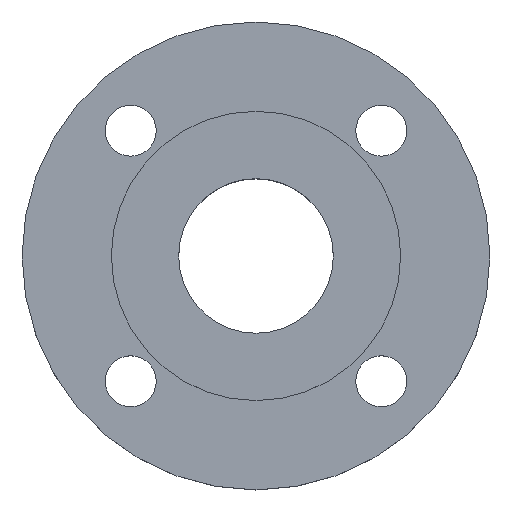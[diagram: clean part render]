
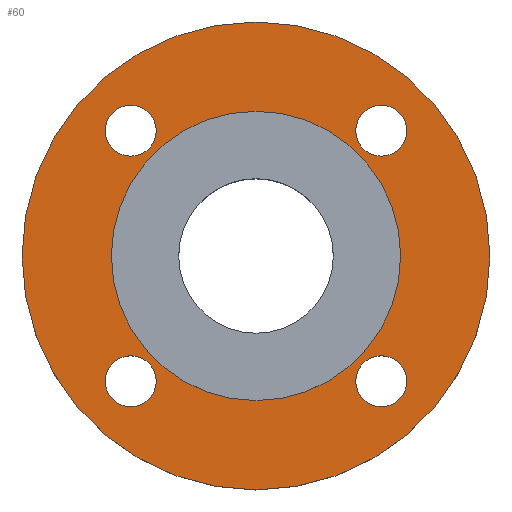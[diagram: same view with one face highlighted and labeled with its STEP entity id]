
A CAD part, top view. The second image highlights one B-rep face of the part: STEP entity #60.
In plain terms, the highlighted planar face has unit normal (0, 0, 1).
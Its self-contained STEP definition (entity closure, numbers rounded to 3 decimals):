
#1 = VERTEX_POINT ( 'NONE', #602 ) ;
#3 = AXIS2_PLACEMENT_3D ( 'NONE', #603, #604, #605 ) ;
#4 = EDGE_CURVE ( 'NONE', #293, #292, #721, .T. ) ;
#12 = CARTESIAN_POINT ( 'NONE',  ( -44.194, 44.194, 0. ) ) ;
#15 = CIRCLE ( 'NONE', #228, 82.5 ) ;
#27 = CIRCLE ( 'NONE', #500, 9. ) ;
#33 = EDGE_CURVE ( 'NONE', #1, #409, #321, .T. ) ;
#48 = CIRCLE ( 'NONE', #66, 82.5 ) ;
#60 = ADVANCED_FACE ( 'NONE', ( #716, #717, #722, #724, #725, #727 ), #728, .T. ) ;
#66 = AXIS2_PLACEMENT_3D ( 'NONE', #820, #823, #836 ) ;
#69 = ORIENTED_EDGE ( 'NONE', *, *, #33, .T. ) ;
#72 = ORIENTED_EDGE ( 'NONE', *, *, #477, .T. ) ;
#76 = CIRCLE ( 'NONE', #78, 9. ) ;
#77 = ORIENTED_EDGE ( 'NONE', *, *, #406, .T. ) ;
#78 = AXIS2_PLACEMENT_3D ( 'NONE', #290, #286, #283 ) ;
#81 = ORIENTED_EDGE ( 'NONE', *, *, #852, .T. ) ;
#82 = ORIENTED_EDGE ( 'NONE', *, *, #108, .T. ) ;
#83 = ORIENTED_EDGE ( 'NONE', *, *, #145, .T. ) ;
#84 = ORIENTED_EDGE ( 'NONE', *, *, #829, .T. ) ;
#85 = ORIENTED_EDGE ( 'NONE', *, *, #4, .T. ) ;
#90 = ORIENTED_EDGE ( 'NONE', *, *, #142, .F. ) ;
#91 = ORIENTED_EDGE ( 'NONE', *, *, #713, .F. ) ;
#93 = ORIENTED_EDGE ( 'NONE', *, *, #826, .T. ) ;
#108 = EDGE_CURVE ( 'NONE', #529, #259, #266, .T. ) ;
#120 = AXIS2_PLACEMENT_3D ( 'NONE', #578, #575, #580 ) ;
#139 = AXIS2_PLACEMENT_3D ( 'NONE', #12, #806, #802 ) ;
#142 = EDGE_CURVE ( 'NONE', #591, #299, #516, .T. ) ;
#145 = EDGE_CURVE ( 'NONE', #259, #529, #319, .T. ) ;
#157 = VERTEX_POINT ( 'NONE', #818 ) ;
#217 = DIRECTION ( 'NONE',  ( -1., 0., 0. ) ) ;
#218 = DIRECTION ( 'NONE',  ( 0., 0., -1. ) ) ;
#219 = CIRCLE ( 'NONE', #298, 9. ) ;
#221 = CARTESIAN_POINT ( 'NONE',  ( -44.194, -44.194, 0. ) ) ;
#228 = AXIS2_PLACEMENT_3D ( 'NONE', #302, #300, #291 ) ;
#259 = VERTEX_POINT ( 'NONE', #789 ) ;
#266 = CIRCLE ( 'NONE', #267, 9. ) ;
#267 = AXIS2_PLACEMENT_3D ( 'NONE', #785, #787, #788 ) ;
#280 = VERTEX_POINT ( 'NONE', #790 ) ;
#283 = DIRECTION ( 'NONE',  ( -1., 0., 0. ) ) ;
#286 = DIRECTION ( 'NONE',  ( 0., 0., -1. ) ) ;
#290 = CARTESIAN_POINT ( 'NONE',  ( 44.194, 44.194, 0. ) ) ;
#291 = DIRECTION ( 'NONE',  ( 1., 0., 0. ) ) ;
#292 = VERTEX_POINT ( 'NONE', #798 ) ;
#293 = VERTEX_POINT ( 'NONE', #799 ) ;
#298 = AXIS2_PLACEMENT_3D ( 'NONE', #520, #515, #509 ) ;
#299 = VERTEX_POINT ( 'NONE', #810 ) ;
#300 = DIRECTION ( 'NONE',  ( 0., 0., 1. ) ) ;
#302 = CARTESIAN_POINT ( 'NONE',  ( 0., 0., 0. ) ) ;
#303 = EDGE_CURVE ( 'NONE', #280, #157, #48, .T. ) ;
#308 = ORIENTED_EDGE ( 'NONE', *, *, #303, .T. ) ;
#319 = CIRCLE ( 'NONE', #139, 9. ) ;
#321 = CIRCLE ( 'NONE', #428, 9. ) ;
#325 = DIRECTION ( 'NONE',  ( 1., 0., 0. ) ) ;
#326 = DIRECTION ( 'NONE',  ( 0., 0., 1. ) ) ;
#327 = CARTESIAN_POINT ( 'NONE',  ( 0., 0., 0. ) ) ;
#332 = VERTEX_POINT ( 'NONE', #843 ) ;
#386 = CARTESIAN_POINT ( 'NONE',  ( 37.5, 0., 0. ) ) ;
#406 = EDGE_CURVE ( 'NONE', #536, #332, #750, .T. ) ;
#409 = VERTEX_POINT ( 'NONE', #579 ) ;
#411 = CARTESIAN_POINT ( 'NONE',  ( -35.194, -44.194, 0. ) ) ;
#413 = CARTESIAN_POINT ( 'NONE',  ( -35.194, 44.194, 0. ) ) ;
#428 = AXIS2_PLACEMENT_3D ( 'NONE', #666, #668, #671 ) ;
#444 = CIRCLE ( 'NONE', #451, 37.5 ) ;
#451 = AXIS2_PLACEMENT_3D ( 'NONE', #327, #326, #325 ) ;
#477 = EDGE_CURVE ( 'NONE', #409, #1, #219, .T. ) ;
#479 = AXIS2_PLACEMENT_3D ( 'NONE', #730, #731, #733 ) ;
#500 = AXIS2_PLACEMENT_3D ( 'NONE', #221, #218, #217 ) ;
#509 = DIRECTION ( 'NONE',  ( -1., 0., 0. ) ) ;
#515 = DIRECTION ( 'NONE',  ( 0., 0., -1. ) ) ;
#516 = CIRCLE ( 'NONE', #657, 37.5 ) ;
#520 = CARTESIAN_POINT ( 'NONE',  ( 44.194, -44.194, 0. ) ) ;
#529 = VERTEX_POINT ( 'NONE', #413 ) ;
#536 = VERTEX_POINT ( 'NONE', #411 ) ;
#547 = EDGE_LOOP ( 'NONE', ( #90, #91 ) ) ;
#554 = EDGE_LOOP ( 'NONE', ( #84, #85 ) ) ;
#575 = DIRECTION ( 'NONE',  ( 0., 0., -1. ) ) ;
#578 = CARTESIAN_POINT ( 'NONE',  ( -44.194, -44.194, 0. ) ) ;
#579 = CARTESIAN_POINT ( 'NONE',  ( 53.194, -44.194, 0. ) ) ;
#580 = DIRECTION ( 'NONE',  ( -1., 0., 0. ) ) ;
#582 = EDGE_LOOP ( 'NONE', ( #72, #69 ) ) ;
#584 = EDGE_LOOP ( 'NONE', ( #82, #83 ) ) ;
#586 = EDGE_LOOP ( 'NONE', ( #77, #81 ) ) ;
#591 = VERTEX_POINT ( 'NONE', #386 ) ;
#596 = EDGE_LOOP ( 'NONE', ( #93, #308 ) ) ;
#602 = CARTESIAN_POINT ( 'NONE',  ( 35.194, -44.194, 0. ) ) ;
#603 = CARTESIAN_POINT ( 'NONE',  ( 44.194, 44.194, 0. ) ) ;
#604 = DIRECTION ( 'NONE',  ( 0., 0., -1. ) ) ;
#605 = DIRECTION ( 'NONE',  ( -1., 0., 0. ) ) ;
#657 = AXIS2_PLACEMENT_3D ( 'NONE', #816, #828, #817 ) ;
#666 = CARTESIAN_POINT ( 'NONE',  ( 44.194, -44.194, 0. ) ) ;
#668 = DIRECTION ( 'NONE',  ( 0., 0., -1. ) ) ;
#671 = DIRECTION ( 'NONE',  ( -1., 0., 0. ) ) ;
#713 = EDGE_CURVE ( 'NONE', #299, #591, #444, .T. ) ;
#716 = FACE_BOUND ( 'NONE', #582, .T. ) ;
#717 = FACE_BOUND ( 'NONE', #586, .T. ) ;
#721 = CIRCLE ( 'NONE', #3, 9. ) ;
#722 = FACE_BOUND ( 'NONE', #584, .T. ) ;
#724 = FACE_BOUND ( 'NONE', #554, .T. ) ;
#725 = FACE_BOUND ( 'NONE', #547, .T. ) ;
#727 = FACE_OUTER_BOUND ( 'NONE', #596, .T. ) ;
#728 = PLANE ( 'NONE',  #479 ) ;
#730 = CARTESIAN_POINT ( 'NONE',  ( 0., 0., 0. ) ) ;
#731 = DIRECTION ( 'NONE',  ( 0., 0., 1. ) ) ;
#733 = DIRECTION ( 'NONE',  ( 1., 0., 0. ) ) ;
#750 = CIRCLE ( 'NONE', #120, 9. ) ;
#785 = CARTESIAN_POINT ( 'NONE',  ( -44.194, 44.194, 0. ) ) ;
#787 = DIRECTION ( 'NONE',  ( 0., 0., -1. ) ) ;
#788 = DIRECTION ( 'NONE',  ( -1., 0., 0. ) ) ;
#789 = CARTESIAN_POINT ( 'NONE',  ( -53.194, 44.194, 0. ) ) ;
#790 = CARTESIAN_POINT ( 'NONE',  ( -82.5, 0., 0. ) ) ;
#798 = CARTESIAN_POINT ( 'NONE',  ( 53.194, 44.194, 0. ) ) ;
#799 = CARTESIAN_POINT ( 'NONE',  ( 35.194, 44.194, 0. ) ) ;
#802 = DIRECTION ( 'NONE',  ( -1., 0., 0. ) ) ;
#806 = DIRECTION ( 'NONE',  ( 0., 0., -1. ) ) ;
#810 = CARTESIAN_POINT ( 'NONE',  ( -37.5, 0., 0. ) ) ;
#816 = CARTESIAN_POINT ( 'NONE',  ( 0., 0., 0. ) ) ;
#817 = DIRECTION ( 'NONE',  ( 1., 0., 0. ) ) ;
#818 = CARTESIAN_POINT ( 'NONE',  ( 82.5, 0., 0. ) ) ;
#820 = CARTESIAN_POINT ( 'NONE',  ( 0., 0., 0. ) ) ;
#823 = DIRECTION ( 'NONE',  ( 0., 0., 1. ) ) ;
#826 = EDGE_CURVE ( 'NONE', #157, #280, #15, .T. ) ;
#828 = DIRECTION ( 'NONE',  ( 0., 0., 1. ) ) ;
#829 = EDGE_CURVE ( 'NONE', #292, #293, #76, .T. ) ;
#836 = DIRECTION ( 'NONE',  ( 1., 0., 0. ) ) ;
#843 = CARTESIAN_POINT ( 'NONE',  ( -53.194, -44.194, 0. ) ) ;
#852 = EDGE_CURVE ( 'NONE', #332, #536, #27, .T. ) ;
